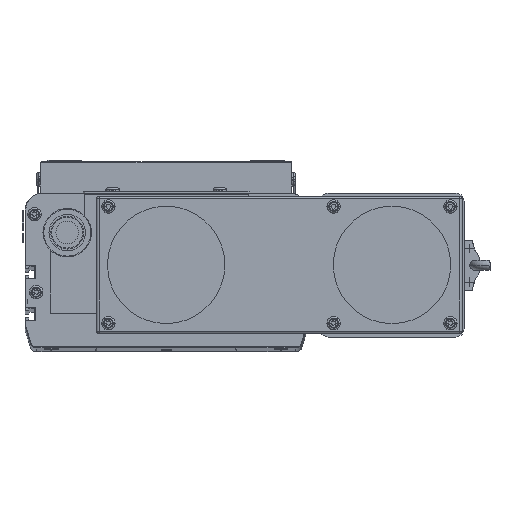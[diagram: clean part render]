
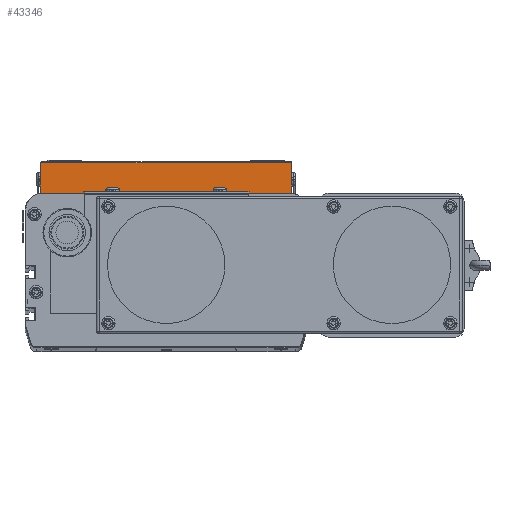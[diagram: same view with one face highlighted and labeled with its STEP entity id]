
A CAD part, top view. The second image highlights one B-rep face of the part: STEP entity #43346.
In plain terms, the highlighted planar face has unit normal (0, 0, 1) as drawn and (1, 0, 0) by its records, which use the part's own axes.
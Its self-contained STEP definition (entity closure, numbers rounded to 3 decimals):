
#42248 = VERTEX_POINT ( 'NONE', #56748 ) ;
#42274 = VERTEX_POINT ( 'NONE', #56568 ) ;
#42513 = EDGE_CURVE ( 'NONE', #42248, #42274, #57226, .T. ) ;
#42930 = ORIENTED_EDGE ( 'NONE', *, *, #43343, .T. ) ;
#42992 = EDGE_CURVE ( 'NONE', #42997, #43086, #58025, .T. ) ;
#42997 = VERTEX_POINT ( 'NONE', #58028 ) ;
#42999 = EDGE_LOOP ( 'NONE', ( #43422, #43269, #42930, #43195, #43230 ) ) ;
#43086 = VERTEX_POINT ( 'NONE', #58577 ) ;
#43195 = ORIENTED_EDGE ( 'NONE', *, *, #42992, .T. ) ;
#43230 = ORIENTED_EDGE ( 'NONE', *, *, #43412, .T. ) ;
#43269 = ORIENTED_EDGE ( 'NONE', *, *, #43347, .T. ) ;
#43343 = EDGE_CURVE ( 'NONE', #43417, #42997, #58125, .T. ) ;
#43346 = ADVANCED_FACE ( 'NONE', ( #60011 ), #59617, .F. ) ;
#43347 = EDGE_CURVE ( 'NONE', #42248, #43417, #59961, .T. ) ;
#43412 = EDGE_CURVE ( 'NONE', #43086, #42274, #60434, .T. ) ;
#43417 = VERTEX_POINT ( 'NONE', #60238 ) ;
#43422 = ORIENTED_EDGE ( 'NONE', *, *, #42513, .F. ) ;
#56568 = CARTESIAN_POINT ( 'NONE',  ( 220., 0., -150. ) ) ;
#56748 = CARTESIAN_POINT ( 'NONE',  ( 220., 19.5, -150. ) ) ;
#57222 = DIRECTION ( 'NONE',  ( 0., -1., 0. ) ) ;
#57223 = VECTOR ( 'NONE', #57222, 1000. ) ;
#57224 = CARTESIAN_POINT ( 'NONE',  ( 220., 20., -150. ) ) ;
#57226 = LINE ( 'NONE', #57224, #57223 ) ;
#58015 = DIRECTION ( 'NONE',  ( 0., -1., 0. ) ) ;
#58016 = VECTOR ( 'NONE', #58015, 1000. ) ;
#58018 = CARTESIAN_POINT ( 'NONE',  ( 220., 20., 0. ) ) ;
#58025 = LINE ( 'NONE', #58018, #58016 ) ;
#58028 = CARTESIAN_POINT ( 'NONE',  ( 220., 19.5, 0. ) ) ;
#58122 = DIRECTION ( 'NONE',  ( 0., 0., 1. ) ) ;
#58123 = VECTOR ( 'NONE', #58122, 1000. ) ;
#58124 = CARTESIAN_POINT ( 'NONE',  ( 220., 19.5, 0. ) ) ;
#58125 = LINE ( 'NONE', #58124, #58123 ) ;
#58577 = CARTESIAN_POINT ( 'NONE',  ( 220., 0., 0. ) ) ;
#59617 = PLANE ( 'NONE',  #59758 ) ;
#59758 = AXIS2_PLACEMENT_3D ( 'NONE', #60135, #59964, #59953 ) ;
#59946 = DIRECTION ( 'NONE',  ( 0., 0., 1. ) ) ;
#59948 = VECTOR ( 'NONE', #59946, 1000. ) ;
#59953 = DIRECTION ( 'NONE',  ( 0., 0., 1. ) ) ;
#59959 = CARTESIAN_POINT ( 'NONE',  ( 220., 19.5, 0. ) ) ;
#59961 = LINE ( 'NONE', #59959, #59948 ) ;
#59964 = DIRECTION ( 'NONE',  ( -1., 0., 0. ) ) ;
#60011 = FACE_OUTER_BOUND ( 'NONE', #42999, .T. ) ;
#60135 = CARTESIAN_POINT ( 'NONE',  ( 220., 20., 0. ) ) ;
#60238 = CARTESIAN_POINT ( 'NONE',  ( 220., 19.5, -75. ) ) ;
#60433 = CARTESIAN_POINT ( 'NONE',  ( 220., 0., 0. ) ) ;
#60434 = LINE ( 'NONE', #60433, #60461 ) ;
#60459 = DIRECTION ( 'NONE',  ( 0., 0., -1. ) ) ;
#60461 = VECTOR ( 'NONE', #60459, 1000. ) ;
